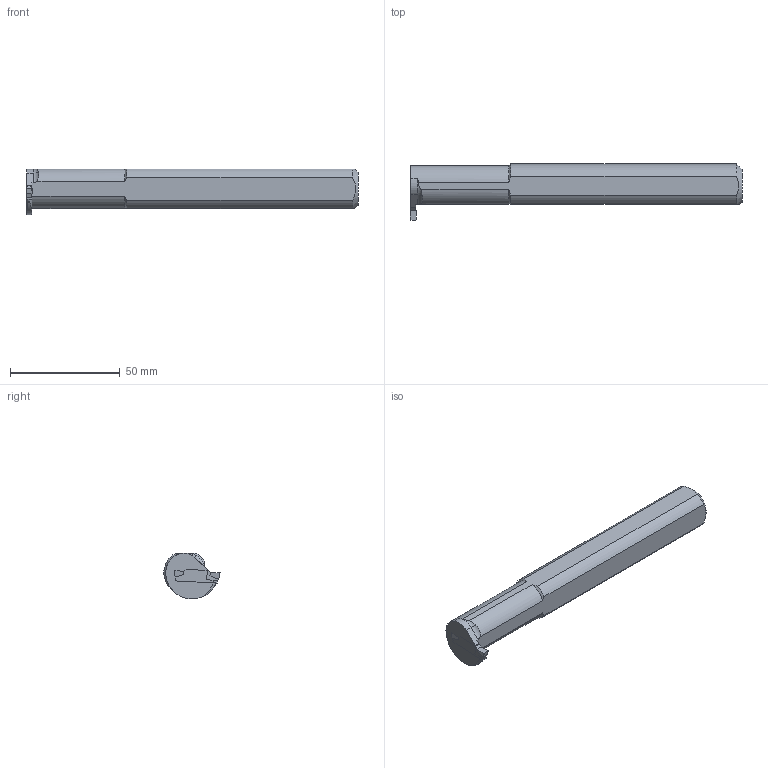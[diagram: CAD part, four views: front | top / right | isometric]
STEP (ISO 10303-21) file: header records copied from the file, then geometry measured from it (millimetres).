
FILE_DESCRIPTION(/* description */ (''),/* implementation_level */ '2;1');
FILE_NAME(/* name */ 'MGIVR2520-3-HAAS.stp',/* time_stamp */ '2021-10-18T09:10:14+09:00',/* author */ (''),/* organization */ (''),/* preprocessor_version */ 'ST-DEVELOPER v16',/* originating_system */ 'SIEMENS PLM Software NX 10.0',/* authorisation */ '');
FILE_SCHEMA (('AUTOMOTIVE_DESIGN { 1 0 10303 214 3 1 1 1 }'));
Length unit declared in the file: millimetre
Products named in the file (1): model1
Bounding box: 151.24 x 25.56 x 20.93 mm (x, y, z)
Volume: 42818.6 mm3; surface area: 10093.2 mm2
Topology: 2 solids, 2 shells, 54 faces, 145 edges, 91 vertices
Faces by surface type: plane 35, cylinder 9, cone 4, bspline 4, torus 2
Entity records: 2057 total; most frequent: CARTESIAN_POINT 765, ORIENTED_EDGE 278, DIRECTION 235, EDGE_CURVE 139, LINE 91, VECTOR 91, VERTEX_POINT 90, AXIS2_PLACEMENT_3D 72
